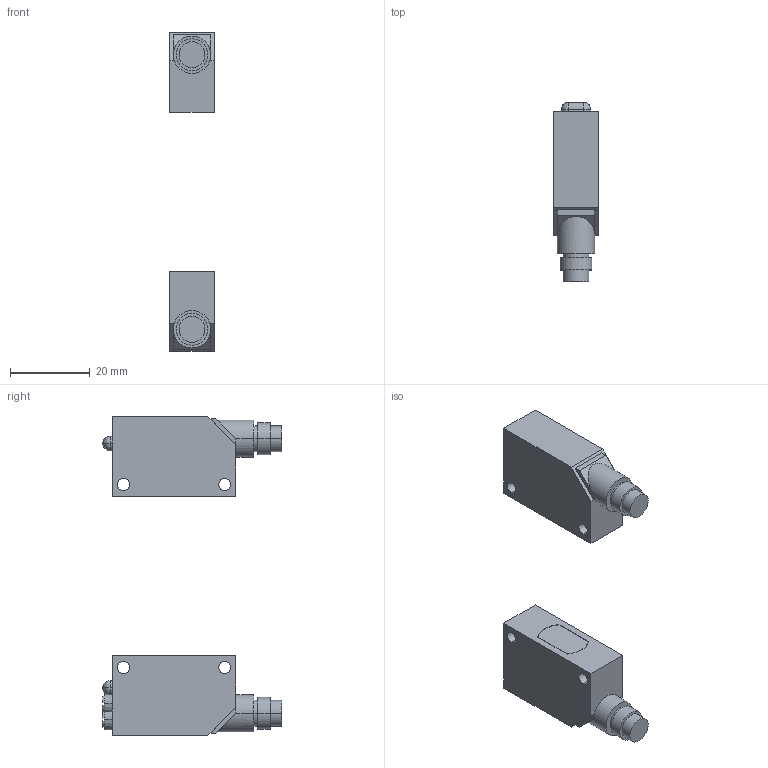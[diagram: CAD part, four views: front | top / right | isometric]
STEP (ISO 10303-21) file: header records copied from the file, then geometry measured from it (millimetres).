
FILE_DESCRIPTION (( 'STEP AP203' ), '1' );
FILE_NAME ('CX-411-Z.STEP', '2005-09-05T02:42:22', ( '川島良英' ), ( ' ' ), 'SwSTEP 2.0', 'SolidWorks 2004251', '' );
FILE_SCHEMA (( 'CONFIG_CONTROL_DESIGN' ));
Length unit declared in the file: millimetre
Products named in the file (3): CX-411D-Z_蹬怮椔; CX-411-Z; CX-411E-Z_蹬怮椔
Assembly tree (2 placements, depth 2):
  CX-411-Z
    CX-411D-Z_蹬怮椔
    CX-411E-Z_蹬怮椔
Bounding box: 11.2 x 45 x 80 mm (x, y, z)
Volume: 14687.3 mm3; surface area: 5825.3 mm2
Topology: 2 solids, 2 shells, 116 faces, 281 edges, 174 vertices
Faces by surface type: plane 53, cylinder 49, sphere 8, cone 6
Entity records: 3684 total; most frequent: CARTESIAN_POINT 617, DIRECTION 617, ORIENTED_EDGE 546, EDGE_CURVE 273, AXIS2_PLACEMENT_3D 234, VERTEX_POINT 174, LINE 149, VECTOR 149
